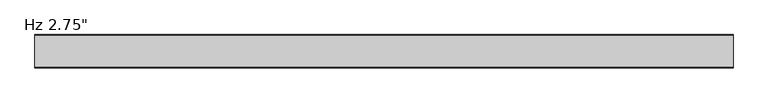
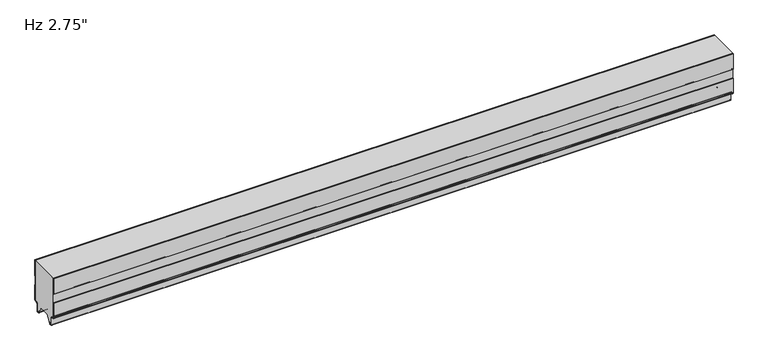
"""IFC4 building model written with IfcOpenShell, lengths in millimetres: plate geometry."""

from ifc_helpers import new_model, si_unit, frame, origin, place, context, project, spatial, polyline, circle_curve, source, transform, mapped, element, save
from ifc_brep_helpers import plane_surface, cylinder_surface, revolved_surface, advanced_brep


def plate_26d1fd30(model_context):
    return source(origin(), model_context, "Body", "AdvancedBrep", [
        advanced_brep(
        [(-730.0, -1.0, 59.9218553), (-730.0, -1.0, 94.95), (-730.0, 0.0, 94.95), (-730.0, 0.0, 59.479416), (-730.0, -1.1911595, 58.4068912), (-730.0, -1.1911595, 39.5087751), (-730.0, 0.0, 38.4362503), (-730.0, 0.0, 5.8272193), (-730.0, -2.9772904, 2.8499526), (-730.0, -5.2691742, 2.8499526), (-730.0, -8.2464427, -0.1273159), (-730.0, -8.2464427, -15.7237419), (-730.0, -9.8343193, -17.3116185), (-730.0, -12.905868, -17.3116185), (-730.0, -14.4937445, -15.7237419), (-730.0, -14.4937445, -13.3687064), (-730.0, -13.4937445, -13.3687064), (-730.0, -13.4937445, -15.7237419), (-730.0, -12.905868, -16.3116185), (-730.0, -9.8343193, -16.3116185), (-730.0, -9.2464427, -15.7237419), (-730.0, -9.2464427, -0.1273159), (-730.0, -5.2691742, 3.8499526), (-730.0, -2.9772904, 3.8499526), (-730.0, -1.0000218, 5.82722), (-730.0, -1.0, 37.993811), (-730.0, -2.1911595, 39.0663358), (-730.0, -2.1911595, 58.8493305), (730.0, 0.0, 59.479416), (730.0, 0.0, 94.95), (730.0, -1.0, 94.95), (730.0, -1.0, 59.9218553), (730.0, -2.1911595, 58.8493305), (730.0, -2.1911595, 39.0663358), (730.0, -1.0, 37.993811), (730.0, -1.0, 5.82722), (730.0, -2.9772904, 3.8499526), (730.0, -5.2691742, 3.8499526), (730.0, -9.2464427, -0.1273159), (730.0, -9.2464427, -15.7237419), (730.0, -9.8343193, -16.3116185), (730.0, -12.905868, -16.3116185), (730.0, -13.4937445, -15.7237419), (730.0, -13.4937445, -13.3687064), (730.0, -14.4937445, -13.3687064), (730.0, -14.4937445, -15.7237419), (730.0, -12.905868, -17.3116185), (730.0, -9.8343193, -17.3116185), (730.0, -8.2464427, -15.7237419), (730.0, -8.2464427, -0.1273159), (730.0, -5.2691742, 2.8499526), (730.0, -2.9772904, 2.8499526), (730.0, -2.18e-05, 5.8272193), (730.0, 0.0, 38.4362503), (730.0, -1.1911595, 39.5087751), (730.0, -1.1911595, 58.4068912)],
        [
            (0, 1),
            (1, 2),
            (2, 3),
            (3, 4),
            (4, 5),
            (5, 6),
            (6, 7),
            (7, 8, circle_curve(frame((-730.0, -2.9772904, 5.8272211), z_axis=(-1.0, 0.0, 0.0), x_axis=(0.0, 1.0, 0.0)), 2.9772685)),
            (8, 9),
            (9, 10, circle_curve(frame((-730.0, -5.2691742, -0.1273159), z_axis=(1.0, 0.0, 0.0), x_axis=(0.0, 1.0, 0.0)), 2.9772685)),
            (10, 11),
            (11, 12, circle_curve(frame((-730.0, -9.8343193, -15.7237419), z_axis=(-1.0, 0.0, 0.0), x_axis=(0.0, 1.0, 0.0)), 1.5878765)),
            (12, 13),
            (13, 14, circle_curve(frame((-730.0, -12.905868, -15.7237419), z_axis=(-1.0, 0.0, 0.0), x_axis=(0.0, 1.0, 0.0)), 1.5878765)),
            (14, 15),
            (15, 16),
            (16, 17),
            (17, 18, circle_curve(frame((-730.0, -12.905868, -15.7237419), z_axis=(1.0, 0.0, 0.0), x_axis=(0.0, 1.0, 0.0)), 0.5878765)),
            (18, 19),
            (19, 20, circle_curve(frame((-730.0, -9.8343193, -15.7237419), z_axis=(1.0, 0.0, 0.0), x_axis=(0.0, 1.0, 0.0)), 0.5878765)),
            (20, 21),
            (21, 22, circle_curve(frame((-730.0, -5.2691742, -0.1273159), z_axis=(-1.0, 0.0, 0.0), x_axis=(0.0, 1.0, 0.0)), 3.9772685)),
            (22, 23),
            (23, 24, circle_curve(frame((-730.0, -2.9772904, 5.8272212), z_axis=(1.0, 0.0, 0.0), x_axis=(0.0, 1.0, 0.0)), 1.9772685)),
            (24, 25),
            (25, 26),
            (26, 27),
            (27, 0),
            (28, 29),
            (29, 30),
            (30, 31),
            (31, 32),
            (32, 33),
            (33, 34),
            (34, 35),
            (35, 36, circle_curve(frame((730.0, -2.9772904, 5.8272212), z_axis=(-1.0, 0.0, 0.0), x_axis=(0.0, 1.0, 0.0)), 1.9772685)),
            (36, 37),
            (37, 38, circle_curve(frame((730.0, -5.2691742, -0.1273159), z_axis=(1.0, 0.0, 0.0), x_axis=(0.0, 1.0, 0.0)), 3.9772685)),
            (38, 39),
            (39, 40, circle_curve(frame((730.0, -9.8343193, -15.7237419), z_axis=(-1.0, 0.0, 0.0), x_axis=(0.0, 1.0, 0.0)), 0.5878765)),
            (40, 41),
            (41, 42, circle_curve(frame((730.0, -12.905868, -15.7237419), z_axis=(-1.0, 0.0, 0.0), x_axis=(0.0, 1.0, 0.0)), 0.5878765)),
            (42, 43),
            (43, 44),
            (44, 45),
            (45, 46, circle_curve(frame((730.0, -12.905868, -15.7237419), z_axis=(1.0, 0.0, 0.0), x_axis=(0.0, 1.0, 0.0)), 1.5878765)),
            (46, 47),
            (47, 48, circle_curve(frame((730.0, -9.8343193, -15.7237419), z_axis=(1.0, 0.0, 0.0), x_axis=(0.0, 1.0, 0.0)), 1.5878765)),
            (48, 49),
            (49, 50, circle_curve(frame((730.0, -5.2691742, -0.1273159), z_axis=(-1.0, 0.0, 0.0), x_axis=(0.0, 1.0, 0.0)), 2.9772685)),
            (50, 51),
            (51, 52, circle_curve(frame((730.0, -2.9772904, 5.8272211), z_axis=(1.0, 0.0, 0.0), x_axis=(0.0, 1.0, 0.0)), 2.9772685)),
            (52, 53),
            (53, 54),
            (54, 55),
            (55, 28),
            (30, 1),
            (0, 31),
            (27, 32),
            (26, 33),
            (25, 34),
            (24, 35),
            (23, 36),
            (22, 37),
            (21, 38),
            (20, 39),
            (19, 40),
            (18, 41),
            (17, 42),
            (16, 43),
            (15, 44),
            (14, 45),
            (13, 46),
            (12, 47),
            (11, 48),
            (10, 49),
            (9, 50),
            (8, 51),
            (7, 52),
            (6, 53),
            (5, 54),
            (4, 55),
            (3, 28),
            (2, 29),
        ],
        [
            plane_surface(frame((-730.0, 0.0, 576.2625), z_axis=(-1.0, 0.0, 0.0), x_axis=(0.0, 1.0, 0.0))),
            plane_surface(frame((730.0, 0.0, 576.2625), z_axis=(1.0, 0.0, 0.0), x_axis=(0.0, 1.0, 0.0))),
            plane_surface(frame((-730.0, -1.0, 113.6164312), z_axis=(0.0, -1.0, 0.0), x_axis=(1.0, 0.0, 0.0))),
            plane_surface(frame((-730.0, -1.0, 59.9218553), z_axis=(0.0, -0.6691306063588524, 0.7431448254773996), x_axis=(1.0, 0.0, 0.0))),
            plane_surface(frame((-730.0, -2.1911595, 58.8493305), z_axis=(0.0, -1.0, 0.0), x_axis=(1.0, 0.0, 0.0))),
            plane_surface(frame((-730.0, -2.1911595, 39.0663358), z_axis=(0.0, -0.6691306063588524, -0.7431448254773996), x_axis=(1.0, 0.0, 0.0))),
            plane_surface(frame((-730.0, -1.0, 37.993811), z_axis=(0.0, -1.0, 0.0), x_axis=(1.0, 0.0, 0.0))),
            revolved_surface(polyline([(730.0, -1.0000218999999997, 5.8272212), (-730.0, -1.0000218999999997, 5.8272212)]), (-730.0, -2.9772904, 5.8272212), (1.0, 0.0, 0.0)),
            plane_surface(frame((-730.0, -2.9772904, 3.8499526), z_axis=(0.0, 0.0, 1.0), x_axis=(1.0, 0.0, 0.0))),
            cylinder_surface(frame((-730.0, -5.2691742, -0.1273159), z_axis=(-1.0, 0.0, 0.0), x_axis=(0.0, 1.0, 0.0)), 3.9772685),
            plane_surface(frame((-730.0, -9.2464427, -0.1273159), z_axis=(0.0, -1.0, 0.0), x_axis=(1.0, 0.0, 0.0))),
            revolved_surface(polyline([(730.0, -9.2464428, -15.7237419), (-730.0, -9.2464428, -15.7237419)]), (-730.0, -9.8343193, -15.7237419), (1.0, 0.0, 0.0)),
            plane_surface(frame((-730.0, -9.8343193, -16.3116185), z_axis=(0.0, 0.0, 1.0), x_axis=(1.0, 0.0, 0.0))),
            revolved_surface(polyline([(730.0, -12.3179915, -15.7237419), (-730.0, -12.3179915, -15.7237419)]), (-730.0, -12.905868, -15.7237419), (1.0, 0.0, 0.0)),
            plane_surface(frame((-730.0, -13.4937445, -15.7237419), z_axis=(0.0, 1.0, 0.0), x_axis=(1.0, 0.0, 0.0))),
            plane_surface(frame((-730.0, -13.4937445, -13.3687064), z_axis=(0.0, 0.0, 1.0), x_axis=(1.0, 0.0, 0.0))),
            plane_surface(frame((-730.0, -14.4937445, -13.3687064), z_axis=(0.0, -1.0, 0.0), x_axis=(1.0, 0.0, 0.0))),
            cylinder_surface(frame((-730.0, -12.905868, -15.7237419), z_axis=(-1.0, 0.0, 0.0), x_axis=(0.0, 1.0, 0.0)), 1.5878765),
            plane_surface(frame((-730.0, -12.905868, -17.3116185), z_axis=(0.0, 0.0, -1.0), x_axis=(1.0, 0.0, 0.0))),
            cylinder_surface(frame((-730.0, -9.8343193, -15.7237419), z_axis=(-1.0, 0.0, 0.0), x_axis=(0.0, 1.0, 0.0)), 1.5878765),
            plane_surface(frame((-730.0, -8.2464427, -15.7237419), z_axis=(0.0, 1.0, 0.0), x_axis=(1.0, 0.0, 0.0))),
            revolved_surface(polyline([(730.0, -2.2919057, -0.1273159), (-730.0, -2.2919057, -0.1273159)]), (-730.0, -5.2691742, -0.1273159), (1.0, 0.0, 0.0)),
            plane_surface(frame((-730.0, -5.2691742, 2.8499526), z_axis=(0.0, 0.0, -1.0), x_axis=(1.0, 0.0, 0.0))),
            cylinder_surface(frame((-730.0, -2.9772904, 5.8272211), z_axis=(-1.0, 0.0, 0.0), x_axis=(0.0, 1.0, 0.0)), 2.9772685),
            plane_surface(frame((-730.0, 0.0, 5.8272193), z_axis=(0.0, 1.0, 0.0), x_axis=(1.0, 0.0, 0.0))),
            plane_surface(frame((-730.0, 0.0, 38.4362503), z_axis=(0.0, 0.6691306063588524, 0.7431448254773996), x_axis=(1.0, 0.0, 0.0))),
            plane_surface(frame((-730.0, -1.1911595, 39.5087751), z_axis=(0.0, 1.0, 0.0), x_axis=(1.0, 0.0, 0.0))),
            plane_surface(frame((-730.0, -1.1911595, 58.4068912), z_axis=(0.0, 0.6691306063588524, -0.7431448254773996), x_axis=(1.0, 0.0, 0.0))),
            plane_surface(frame((-730.0, 0.0, 59.479416), z_axis=(0.0, 1.0, 0.0), x_axis=(1.0, 0.0, 0.0))),
            plane_surface(frame((730.0, 10.0, 94.95), z_axis=(0.0, 0.0, 1.0), x_axis=(-1.0, 0.0, 0.0))),
        ],
        [
            (0, [[1, 2, 3, 4, 5, 6, 7, 8, 9, 10, 11, 12, 13, 14, 15, 16, 17, 18, 19, 20, 21, 22, 23, 24, 25, 26, 27, 28]]),
            (1, [[29, 30, 31, 32, 33, 34, 35, 36, 37, 38, 39, 40, 41, 42, 43, 44, 45, 46, 47, 48, 49, 50, 51, 52, 53, 54, 55, 56]]),
            (2, [[-31, 57, -1, 58]]),
            (3, [[59, -32, -58, -28]]),
            (4, [[60, -33, -59, -27]]),
            (5, [[61, -34, -60, -26]]),
            (6, [[62, -35, -61, -25]]),
            (7, [[63, -36, -62, -24]]),
            (8, [[64, -37, -63, -23]]),
            (9, [[65, -38, -64, -22]]),
            (10, [[66, -39, -65, -21]]),
            (11, [[67, -40, -66, -20]]),
            (12, [[68, -41, -67, -19]]),
            (13, [[69, -42, -68, -18]]),
            (14, [[70, -43, -69, -17]]),
            (15, [[71, -44, -70, -16]]),
            (16, [[72, -45, -71, -15]]),
            (17, [[73, -46, -72, -14]]),
            (18, [[74, -47, -73, -13]]),
            (19, [[75, -48, -74, -12]]),
            (20, [[76, -49, -75, -11]]),
            (21, [[77, -50, -76, -10]]),
            (22, [[78, -51, -77, -9]]),
            (23, [[79, -52, -78, -8]]),
            (24, [[80, -53, -79, -7]]),
            (25, [[81, -54, -80, -6]]),
            (26, [[82, -55, -81, -5]]),
            (27, [[83, -56, -82, -4]]),
            (28, [[-3, 84, -29, -83]]),
            (29, [[-57, -30, -84, -2]]),
        ],
    ),
        advanced_brep(
        [(-730.0, -69.9, 59.479416), (-730.0, -69.9, 94.95), (-730.0, -68.9, 94.95), (-730.0, -68.9, 59.9218553), (-730.0, -67.7088405, 58.8493305), (-730.0, -67.7088405, 39.0663358), (-730.0, -68.9, 37.993811), (-730.0, -68.9, 5.82722), (-730.0, -66.9227096, 3.8499526), (-730.0, -64.6308258, 3.8499526), (-730.0, -60.6535573, -0.1273159), (-730.0, -60.6535573, -15.7237419), (-730.0, -60.0656807, -16.3116185), (-730.0, -56.994132, -16.3116185), (-730.0, -56.4062555, -15.7237419), (-730.0, -56.4062555, -13.3687064), (-730.0, -55.4062555, -13.3687064), (-730.0, -55.4062555, -15.7237419), (-730.0, -56.994132, -17.3116185), (-730.0, -60.0656807, -17.3116185), (-730.0, -61.6535573, -15.7237419), (-730.0, -61.6535573, -0.1273159), (-730.0, -64.6308258, 2.8499526), (-730.0, -66.9227096, 2.8499526), (-730.0, -69.8999782, 5.8272193), (-730.0, -69.9, 38.4362503), (-730.0, -68.7088405, 39.5087751), (-730.0, -68.7088405, 58.4068912), (730.0, -68.9, 59.9218553), (730.0, -68.9, 94.95), (730.0, -69.9, 94.95), (730.0, -69.9, 59.479416), (730.0, -68.7088405, 58.4068912), (730.0, -68.7088405, 39.5087751), (730.0, -69.9, 38.4362503), (730.0, -69.9, 5.8272193), (730.0, -66.9227096, 2.8499526), (730.0, -64.6308258, 2.8499526), (730.0, -61.6535573, -0.1273159), (730.0, -61.6535573, -15.7237419), (730.0, -60.0656807, -17.3116185), (730.0, -56.994132, -17.3116185), (730.0, -55.4062555, -15.7237419), (730.0, -55.4062555, -13.3687064), (730.0, -56.4062555, -13.3687064), (730.0, -56.4062555, -15.7237419), (730.0, -56.994132, -16.3116185), (730.0, -60.0656807, -16.3116185), (730.0, -60.6535573, -15.7237419), (730.0, -60.6535573, -0.1273159), (730.0, -64.6308258, 3.8499526), (730.0, -66.9227096, 3.8499526), (730.0, -68.8999782, 5.82722), (730.0, -68.9, 37.993811), (730.0, -67.7088405, 39.0663358), (730.0, -67.7088405, 58.8493305)],
        [
            (0, 1),
            (1, 2),
            (2, 3),
            (3, 4),
            (4, 5),
            (5, 6),
            (6, 7),
            (7, 8, circle_curve(frame((-730.0, -66.9227096, 5.8272212), z_axis=(1.0, 0.0, 0.0), x_axis=(0.0, 0.0, -1.0)), 1.9772685)),
            (8, 9),
            (9, 10, circle_curve(frame((-730.0, -64.6308258, -0.1273159), z_axis=(-1.0, 0.0, 0.0), x_axis=(0.0, 0.0, -1.0)), 3.9772685)),
            (10, 11),
            (11, 12, circle_curve(frame((-730.0, -60.0656807, -15.7237419), z_axis=(1.0, 0.0, 0.0), x_axis=(0.0, 0.0, -1.0)), 0.5878765)),
            (12, 13),
            (13, 14, circle_curve(frame((-730.0, -56.994132, -15.7237419), z_axis=(1.0, 0.0, 0.0), x_axis=(0.0, 0.0, -1.0)), 0.5878765)),
            (14, 15),
            (15, 16),
            (16, 17),
            (17, 18, circle_curve(frame((-730.0, -56.994132, -15.7237419), z_axis=(-1.0, 0.0, 0.0), x_axis=(0.0, 0.0, -1.0)), 1.5878765)),
            (18, 19),
            (19, 20, circle_curve(frame((-730.0, -60.0656807, -15.7237419), z_axis=(-1.0, 0.0, 0.0), x_axis=(0.0, 0.0, -1.0)), 1.5878765)),
            (20, 21),
            (21, 22, circle_curve(frame((-730.0, -64.6308258, -0.1273159), z_axis=(1.0, 0.0, 0.0), x_axis=(0.0, 0.0, -1.0)), 2.9772685)),
            (22, 23),
            (23, 24, circle_curve(frame((-730.0, -66.9227096, 5.8272211), z_axis=(-1.0, 0.0, 0.0), x_axis=(0.0, 0.0, -1.0)), 2.9772685)),
            (24, 25),
            (25, 26),
            (26, 27),
            (27, 0),
            (28, 29),
            (29, 30),
            (30, 31),
            (31, 32),
            (32, 33),
            (33, 34),
            (34, 35),
            (35, 36, circle_curve(frame((730.0, -66.9227096, 5.8272211), z_axis=(1.0, 0.0, 0.0), x_axis=(0.0, 0.0, -1.0)), 2.9772685)),
            (36, 37),
            (37, 38, circle_curve(frame((730.0, -64.6308258, -0.1273159), z_axis=(-1.0, 0.0, 0.0), x_axis=(0.0, 0.0, -1.0)), 2.9772685)),
            (38, 39),
            (39, 40, circle_curve(frame((730.0, -60.0656807, -15.7237419), z_axis=(1.0, 0.0, 0.0), x_axis=(0.0, 0.0, -1.0)), 1.5878765)),
            (40, 41),
            (41, 42, circle_curve(frame((730.0, -56.994132, -15.7237419), z_axis=(1.0, 0.0, 0.0), x_axis=(0.0, 0.0, -1.0)), 1.5878765)),
            (42, 43),
            (43, 44),
            (44, 45),
            (45, 46, circle_curve(frame((730.0, -56.994132, -15.7237419), z_axis=(-1.0, 0.0, 0.0), x_axis=(0.0, 0.0, -1.0)), 0.5878765)),
            (46, 47),
            (47, 48, circle_curve(frame((730.0, -60.0656807, -15.7237419), z_axis=(-1.0, 0.0, 0.0), x_axis=(0.0, 0.0, -1.0)), 0.5878765)),
            (48, 49),
            (49, 50, circle_curve(frame((730.0, -64.6308258, -0.1273159), z_axis=(1.0, 0.0, 0.0), x_axis=(0.0, 0.0, -1.0)), 3.9772685)),
            (50, 51),
            (51, 52, circle_curve(frame((730.0, -66.9227096, 5.8272212), z_axis=(-1.0, 0.0, 0.0), x_axis=(0.0, 0.0, -1.0)), 1.9772685)),
            (52, 53),
            (53, 54),
            (54, 55),
            (55, 28),
            (1, 30),
            (29, 2),
            (0, 31),
            (27, 32),
            (26, 33),
            (25, 34),
            (24, 35),
            (23, 36),
            (22, 37),
            (21, 38),
            (20, 39),
            (19, 40),
            (18, 41),
            (17, 42),
            (16, 43),
            (15, 44),
            (14, 45),
            (13, 46),
            (12, 47),
            (11, 48),
            (10, 49),
            (9, 50),
            (8, 51),
            (7, 52),
            (6, 53),
            (5, 54),
            (4, 55),
            (3, 28),
        ],
        [
            plane_surface(frame((-730.0, -69.9, 576.2625), z_axis=(-1.0, 0.0, 0.0), x_axis=(0.0, -1.0, 0.0))),
            plane_surface(frame((730.0, -69.9, 576.2625), z_axis=(1.0, 0.0, 0.0), x_axis=(0.0, -1.0, 0.0))),
            plane_surface(frame((730.0, 10.0, 94.95), z_axis=(0.0, 0.0, 1.0), x_axis=(-1.0, 0.0, 0.0))),
            plane_surface(frame((-730.0, -69.9, 114.0588705), z_axis=(0.0, -1.0, 0.0), x_axis=(1.0, 0.0, 0.0))),
            plane_surface(frame((-730.0, -69.9, 59.479416), z_axis=(0.0, -0.6691306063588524, -0.7431448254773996), x_axis=(1.0, 0.0, 0.0))),
            plane_surface(frame((-730.0, -68.7088405, 58.4068912), z_axis=(0.0, -1.0, 0.0), x_axis=(1.0, 0.0, 0.0))),
            plane_surface(frame((-730.0, -68.7088405, 39.5087751), z_axis=(0.0, -0.6691306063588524, 0.7431448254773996), x_axis=(1.0, 0.0, 0.0))),
            plane_surface(frame((-730.0, -69.9, 38.4362503), z_axis=(0.0, -1.0, 0.0), x_axis=(1.0, 0.0, 0.0))),
            cylinder_surface(frame((-730.0, -66.9227096, 5.8272211), z_axis=(-1.0, 0.0, 0.0), x_axis=(0.0, 0.0, -1.0)), 2.9772685),
            plane_surface(frame((-730.0, -66.9227096, 2.8499526), z_axis=(0.0, 0.0, -1.0), x_axis=(1.0, 0.0, 0.0))),
            revolved_surface(polyline([(730.0, -64.6308258, -3.1045844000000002), (-730.0, -64.6308258, -3.1045844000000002)]), (-730.0, -64.6308258, -0.1273159), (1.0, 0.0, 0.0)),
            plane_surface(frame((-730.0, -61.6535573, -0.1273159), z_axis=(0.0, -1.0, 0.0), x_axis=(1.0, 0.0, 0.0))),
            cylinder_surface(frame((-730.0, -60.0656807, -15.7237419), z_axis=(-1.0, 0.0, 0.0), x_axis=(0.0, 0.0, -1.0)), 1.5878765),
            plane_surface(frame((-730.0, -60.0656807, -17.3116185), z_axis=(0.0, 0.0, -1.0), x_axis=(1.0, 0.0, 0.0))),
            cylinder_surface(frame((-730.0, -56.994132, -15.7237419), z_axis=(-1.0, 0.0, 0.0), x_axis=(0.0, 0.0, -1.0)), 1.5878765),
            plane_surface(frame((-730.0, -55.4062555, -15.7237419), z_axis=(0.0, 1.0, 0.0), x_axis=(1.0, 0.0, 0.0))),
            plane_surface(frame((-730.0, -55.4062555, -13.3687064), z_axis=(0.0, 0.0, 1.0), x_axis=(1.0, 0.0, 0.0))),
            plane_surface(frame((-730.0, -56.4062555, -13.3687064), z_axis=(0.0, -1.0, 0.0), x_axis=(1.0, 0.0, 0.0))),
            revolved_surface(polyline([(730.0, -56.994132, -16.3116184), (-730.0, -56.994132, -16.3116184)]), (-730.0, -56.994132, -15.7237419), (1.0, 0.0, 0.0)),
            plane_surface(frame((-730.0, -56.994132, -16.3116185), z_axis=(0.0, 0.0, 1.0), x_axis=(1.0, 0.0, 0.0))),
            revolved_surface(polyline([(730.0, -60.0656807, -16.3116184), (-730.0, -60.0656807, -16.3116184)]), (-730.0, -60.0656807, -15.7237419), (1.0, 0.0, 0.0)),
            plane_surface(frame((-730.0, -60.6535573, -15.7237419), z_axis=(0.0, 1.0, 0.0), x_axis=(1.0, 0.0, 0.0))),
            cylinder_surface(frame((-730.0, -64.6308258, -0.1273159), z_axis=(-1.0, 0.0, 0.0), x_axis=(0.0, 0.0, -1.0)), 3.9772685),
            plane_surface(frame((-730.0, -64.6308258, 3.8499526), z_axis=(0.0, 0.0, 1.0), x_axis=(1.0, 0.0, 0.0))),
            revolved_surface(polyline([(730.0, -66.9227096, 3.8499527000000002), (-730.0, -66.9227096, 3.8499527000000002)]), (-730.0, -66.9227096, 5.8272212), (1.0, 0.0, 0.0)),
            plane_surface(frame((-730.0, -68.9, 5.82722), z_axis=(0.0, 1.0, 0.0), x_axis=(1.0, 0.0, 0.0))),
            plane_surface(frame((-730.0, -68.9, 37.993811), z_axis=(0.0, 0.6691306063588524, -0.7431448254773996), x_axis=(1.0, 0.0, 0.0))),
            plane_surface(frame((-730.0, -67.7088405, 39.0663358), z_axis=(0.0, 1.0, 0.0), x_axis=(1.0, 0.0, 0.0))),
            plane_surface(frame((-730.0, -67.7088405, 58.8493305), z_axis=(0.0, 0.6691306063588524, 0.7431448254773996), x_axis=(1.0, 0.0, 0.0))),
            plane_surface(frame((-730.0, -68.9, 59.9218553), z_axis=(0.0, 1.0, 0.0), x_axis=(1.0, 0.0, 0.0))),
        ],
        [
            (0, [[1, 2, 3, 4, 5, 6, 7, 8, 9, 10, 11, 12, 13, 14, 15, 16, 17, 18, 19, 20, 21, 22, 23, 24, 25, 26, 27, 28]]),
            (1, [[29, 30, 31, 32, 33, 34, 35, 36, 37, 38, 39, 40, 41, 42, 43, 44, 45, 46, 47, 48, 49, 50, 51, 52, 53, 54, 55, 56]]),
            (2, [[57, -30, 58, -2]]),
            (3, [[-31, -57, -1, 59]]),
            (4, [[60, -32, -59, -28]]),
            (5, [[61, -33, -60, -27]]),
            (6, [[62, -34, -61, -26]]),
            (7, [[63, -35, -62, -25]]),
            (8, [[64, -36, -63, -24]]),
            (9, [[65, -37, -64, -23]]),
            (10, [[66, -38, -65, -22]]),
            (11, [[67, -39, -66, -21]]),
            (12, [[68, -40, -67, -20]]),
            (13, [[69, -41, -68, -19]]),
            (14, [[70, -42, -69, -18]]),
            (15, [[71, -43, -70, -17]]),
            (16, [[72, -44, -71, -16]]),
            (17, [[73, -45, -72, -15]]),
            (18, [[74, -46, -73, -14]]),
            (19, [[75, -47, -74, -13]]),
            (20, [[76, -48, -75, -12]]),
            (21, [[77, -49, -76, -11]]),
            (22, [[78, -50, -77, -10]]),
            (23, [[79, -51, -78, -9]]),
            (24, [[80, -52, -79, -8]]),
            (25, [[81, -53, -80, -7]]),
            (26, [[82, -54, -81, -6]]),
            (27, [[83, -55, -82, -5]]),
            (28, [[84, -56, -83, -4]]),
            (29, [[-3, -58, -29, -84]]),
        ],
    ),
        advanced_brep(
        [(-730.0, -68.9, 59.9218553), (-730.0, -68.9, 94.95), (-730.0, -1.0, 94.95), (-730.0, -1.0, 59.9218553), (-730.0, -2.1911595, 58.8493305), (-730.0, -2.1911595, 39.0663358), (-730.0, -1.0000109, 37.993811), (-730.0, -1.0000109, 5.8272239), (-730.0, -2.9772849, 3.8499499), (-730.0, -5.2691749, 3.8499499), (-730.0, -9.246442, -0.1273173), (-730.0, -9.246442, -15.7237417), (-730.0, -9.8343189, -16.3116186), (-730.0, -12.9058679, -16.3116186), (-730.0, -13.4937446, -15.723742), (-730.0, -13.4937446, -13.3687064), (-730.0, -14.4937446, -13.3687064), (-730.0, -14.4937446, -15.6582851), (-730.0, -23.7509179, 0.0), (-730.0, -46.1490865, 0.0), (-730.0, -55.4062554, -15.6582851), (-730.0, -55.4062554, -13.3687064), (-730.0, -56.4062554, -13.3687064), (-730.0, -56.4062554, -15.723742), (-730.0, -56.9941321, -16.3116186), (-730.0, -60.0656811, -16.3116186), (-730.0, -60.653558, -15.7237417), (-730.0, -60.653558, -0.1273173), (-730.0, -64.6308251, 3.8499499), (-730.0, -66.9227151, 3.8499499), (-730.0, -68.8999891, 5.8272239), (-730.0, -68.8999891, 37.993811), (-730.0, -67.7088405, 39.0663358), (-730.0, -67.7088405, 58.8493305), (730.0, -46.1490865, 0.0), (730.0, -23.7509179, 0.0), (730.0, -14.4937446, -15.6582851), (730.0, -14.4937446, -13.3687064), (730.0, -13.4937446, -13.3687064), (730.0, -13.4937446, -15.723742), (730.0, -12.9058679, -16.3116186), (730.0, -9.8343189, -16.3116186), (730.0, -9.246442, -15.7237417), (730.0, -9.246442, -0.1273173), (730.0, -5.2691749, 3.8499499), (730.0, -2.9772849, 3.8499499), (730.0, -1.0000109, 5.8272239), (730.0, -1.0000109, 37.993811), (730.0, -2.1911595, 39.0663358), (730.0, -2.1911595, 58.8493305), (730.0, -1.0, 59.9218553), (730.0, -1.0, 94.95), (730.0, -68.9, 94.95), (730.0, -68.9, 59.9218553), (730.0, -67.7088405, 58.8493305), (730.0, -67.7088405, 39.0663358), (730.0, -68.8999891, 37.993811), (730.0, -68.8999891, 5.8272239), (730.0, -66.9227151, 3.8499499), (730.0, -64.6308251, 3.8499499), (730.0, -60.653558, -0.1273173), (730.0, -60.653558, -15.7237417), (730.0, -60.0656811, -16.3116186), (730.0, -56.9941321, -16.3116186), (730.0, -56.4062554, -15.723742), (730.0, -56.4062554, -13.3687064), (730.0, -55.4062554, -13.3687064), (730.0, -55.4062554, -15.6582851)],
        [
            (0, 1),
            (1, 2),
            (2, 3),
            (3, 4),
            (4, 5),
            (5, 6),
            (6, 7),
            (7, 8, circle_curve(frame((-730.0, -2.9772849, 5.8272239), z_axis=(-1.0, 0.0, 0.0), x_axis=(0.0, 1.0, 0.0)), 1.977274)),
            (8, 9),
            (9, 10, circle_curve(frame((-730.0, -5.2691749, -0.1273173), z_axis=(1.0, 0.0, 0.0), x_axis=(0.0, 1.0, 0.0)), 3.9772671)),
            (10, 11),
            (11, 12, circle_curve(frame((-730.0, -9.8343189, -15.7237417), z_axis=(-1.0, 0.0, 0.0), x_axis=(0.0, 1.0, 0.0)), 0.5878769)),
            (12, 13),
            (13, 14, circle_curve(frame((-730.0, -12.9058679, -15.723742), z_axis=(-1.0, 0.0, 0.0), x_axis=(0.0, 1.0, 0.0)), 0.5878766)),
            (14, 15),
            (15, 16),
            (16, 17),
            (17, 18),
            (18, 19),
            (19, 20),
            (20, 21),
            (21, 22),
            (22, 23),
            (23, 24, circle_curve(frame((-730.0, -56.9941321, -15.723742), z_axis=(-1.0, 0.0, 0.0), x_axis=(0.0, 0.0, -1.0)), 0.5878766)),
            (24, 25),
            (25, 26, circle_curve(frame((-730.0, -60.0656811, -15.7237417), z_axis=(-1.0, 0.0, 0.0), x_axis=(0.0, 0.0, -1.0)), 0.5878769)),
            (26, 27),
            (27, 28, circle_curve(frame((-730.0, -64.6308251, -0.1273173), z_axis=(1.0, 0.0, 0.0), x_axis=(0.0, 0.0, -1.0)), 3.9772671)),
            (28, 29),
            (29, 30, circle_curve(frame((-730.0, -66.9227151, 5.8272239), z_axis=(-1.0, 0.0, 0.0), x_axis=(0.0, 0.0, -1.0)), 1.977274)),
            (30, 31),
            (31, 32),
            (32, 33),
            (33, 0),
            (34, 35),
            (35, 36),
            (36, 37),
            (37, 38),
            (38, 39),
            (39, 40, circle_curve(frame((730.0, -12.9058679, -15.723742), z_axis=(1.0, 0.0, 0.0), x_axis=(0.0, 1.0, 0.0)), 0.5878766)),
            (40, 41),
            (41, 42, circle_curve(frame((730.0, -9.8343189, -15.7237417), z_axis=(1.0, 0.0, 0.0), x_axis=(0.0, 1.0, 0.0)), 0.5878769)),
            (42, 43),
            (43, 44, circle_curve(frame((730.0, -5.2691749, -0.1273173), z_axis=(-1.0, 0.0, 0.0), x_axis=(0.0, 1.0, 0.0)), 3.9772671)),
            (44, 45),
            (45, 46, circle_curve(frame((730.0, -2.9772849, 5.8272239), z_axis=(1.0, 0.0, 0.0), x_axis=(0.0, 1.0, 0.0)), 1.977274)),
            (46, 47),
            (47, 48),
            (48, 49),
            (49, 50),
            (50, 51),
            (51, 52),
            (52, 53),
            (53, 54),
            (54, 55),
            (55, 56),
            (56, 57),
            (57, 58, circle_curve(frame((730.0, -66.9227151, 5.8272239), z_axis=(1.0, 0.0, 0.0), x_axis=(0.0, 0.0, -1.0)), 1.977274)),
            (58, 59),
            (59, 60, circle_curve(frame((730.0, -64.6308251, -0.1273173), z_axis=(-1.0, 0.0, 0.0), x_axis=(0.0, 0.0, -1.0)), 3.9772671)),
            (60, 61),
            (61, 62, circle_curve(frame((730.0, -60.0656811, -15.7237417), z_axis=(1.0, 0.0, 0.0), x_axis=(0.0, 0.0, -1.0)), 0.5878769)),
            (62, 63),
            (63, 64, circle_curve(frame((730.0, -56.9941321, -15.723742), z_axis=(1.0, 0.0, 0.0), x_axis=(0.0, 0.0, -1.0)), 0.5878766)),
            (64, 65),
            (65, 66),
            (66, 67),
            (67, 34),
            (17, 36),
            (35, 18),
            (16, 37),
            (15, 38),
            (14, 39),
            (13, 40),
            (12, 41),
            (11, 42),
            (10, 43),
            (9, 44),
            (8, 45),
            (7, 46),
            (6, 47),
            (5, 48),
            (4, 49),
            (3, 50),
            (2, 51),
            (34, 19),
            (1, 52),
            (0, 53),
            (33, 54),
            (32, 55),
            (31, 56),
            (30, 57),
            (29, 58),
            (28, 59),
            (27, 60),
            (26, 61),
            (25, 62),
            (24, 63),
            (23, 64),
            (22, 65),
            (21, 66),
            (20, 67),
        ],
        [
            plane_surface(frame((-730.0, -68.9, 576.2625), z_axis=(-1.0, 0.0, 0.0), x_axis=(0.0, -1.0, 0.0))),
            plane_surface(frame((730.0, -68.9, 576.2625), z_axis=(1.0, 0.0, 0.0), x_axis=(0.0, -1.0, 0.0))),
            plane_surface(frame((-730.0, -23.7509179, 0.0), z_axis=(0.0, -0.8608169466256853, -0.5089147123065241), x_axis=(1.0, 0.0, 0.0))),
            plane_surface(frame((-730.0, -14.4937446, -15.6582851), z_axis=(0.0, 1.0, 0.0), x_axis=(1.0, 0.0, 0.0))),
            plane_surface(frame((-730.0, -14.4937446, -13.3687064), z_axis=(0.0, 0.0, -1.0), x_axis=(1.0, 0.0, 0.0))),
            plane_surface(frame((-730.0, -13.4937446, -13.3687064), z_axis=(0.0, -1.0, 0.0), x_axis=(1.0, 0.0, 0.0))),
            cylinder_surface(frame((-730.0, -12.9058679, -15.723742), z_axis=(-1.0, 0.0, 0.0), x_axis=(0.0, 1.0, 0.0)), 0.5878766),
            plane_surface(frame((-730.0, -12.9058679, -16.3116186), z_axis=(0.0, 0.0, -1.0), x_axis=(1.0, 0.0, 0.0))),
            cylinder_surface(frame((-730.0, -9.8343189, -15.7237417), z_axis=(-1.0, 0.0, 0.0), x_axis=(0.0, 1.0, 0.0)), 0.5878769),
            plane_surface(frame((-730.0, -9.246442, -15.7237417), z_axis=(0.0, 1.0, 0.0), x_axis=(1.0, 0.0, 0.0))),
            revolved_surface(polyline([(730.0, -1.2919078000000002, -0.1273173), (-730.0, -1.2919078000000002, -0.1273173)]), (-730.0, -5.2691749, -0.1273173), (1.0, 0.0, 0.0)),
            plane_surface(frame((-730.0, -5.2691749, 3.8499499), z_axis=(0.0, 0.0, -1.0), x_axis=(1.0, 0.0, 0.0))),
            cylinder_surface(frame((-730.0, -2.9772849, 5.8272239), z_axis=(-1.0, 0.0, 0.0), x_axis=(0.0, 1.0, 0.0)), 1.977274),
            plane_surface(frame((-730.0, -1.0000109, 5.8272239), z_axis=(0.0, 1.0, 0.0), x_axis=(1.0, 0.0, 0.0))),
            plane_surface(frame((-730.0, -1.0000109, 37.993811), z_axis=(0.0, 0.6691339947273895, 0.7431417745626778), x_axis=(1.0, 0.0, 0.0))),
            plane_surface(frame((-730.0, -2.1911595, 39.0663358), z_axis=(0.0, 1.0, 0.0), x_axis=(1.0, 0.0, 0.0))),
            plane_surface(frame((-730.0, -2.1911595, 58.8493305), z_axis=(0.0, 0.6691306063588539, -0.7431448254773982), x_axis=(1.0, 0.0, 0.0))),
            plane_surface(frame((-730.0, -1.0, 59.9218553), z_axis=(0.0, 1.0, 0.0), x_axis=(1.0, 0.0, 0.0))),
            plane_surface(frame((-730.0, -46.1490865, 0.0), z_axis=(0.0, 0.0, -1.0), x_axis=(1.0, 0.0, 0.0))),
            plane_surface(frame((730.0, 10.0, 94.95), z_axis=(0.0, 0.0, 1.0), x_axis=(-1.0, 0.0, 0.0))),
            plane_surface(frame((-730.0, -68.9, 113.6164312), z_axis=(0.0, -1.0, 0.0), x_axis=(1.0, 0.0, 0.0))),
            plane_surface(frame((-730.0, -68.9, 59.9218553), z_axis=(0.0, -0.6691306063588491, -0.7431448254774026), x_axis=(1.0, 0.0, 0.0))),
            plane_surface(frame((-730.0, -67.7088405, 58.8493305), z_axis=(0.0, -1.0, 0.0), x_axis=(1.0, 0.0, 0.0))),
            plane_surface(frame((-730.0, -67.7088405, 39.0663358), z_axis=(0.0, -0.6691339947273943, 0.7431417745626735), x_axis=(1.0, 0.0, 0.0))),
            plane_surface(frame((-730.0, -68.8999891, 37.993811), z_axis=(0.0, -1.0, 0.0), x_axis=(1.0, 0.0, 0.0))),
            cylinder_surface(frame((-730.0, -66.9227151, 5.8272239), z_axis=(-1.0, 0.0, 0.0), x_axis=(0.0, 0.0, -1.0)), 1.977274),
            plane_surface(frame((-730.0, -66.9227151, 3.8499499), z_axis=(0.0, 0.0, -1.0), x_axis=(1.0, 0.0, 0.0))),
            revolved_surface(polyline([(730.0, -64.6308251, -4.1045844), (-730.0, -64.6308251, -4.1045844)]), (-730.0, -64.6308251, -0.1273173), (1.0, 0.0, 0.0)),
            plane_surface(frame((-730.0, -60.653558, -0.1273173), z_axis=(0.0, -1.0, 0.0), x_axis=(1.0, 0.0, 0.0))),
            cylinder_surface(frame((-730.0, -60.0656811, -15.7237417), z_axis=(-1.0, 0.0, 0.0), x_axis=(0.0, 0.0, -1.0)), 0.5878769),
            plane_surface(frame((-730.0, -60.0656811, -16.3116186), z_axis=(0.0, 0.0, -1.0), x_axis=(1.0, 0.0, 0.0))),
            cylinder_surface(frame((-730.0, -56.9941321, -15.723742), z_axis=(-1.0, 0.0, 0.0), x_axis=(0.0, 0.0, -1.0)), 0.5878766),
            plane_surface(frame((-730.0, -56.4062554, -15.723742), z_axis=(0.0, 1.0, 0.0), x_axis=(1.0, 0.0, 0.0))),
            plane_surface(frame((-730.0, -56.4062554, -13.3687064), z_axis=(0.0, 0.0, -1.0), x_axis=(1.0, 0.0, 0.0))),
            plane_surface(frame((-730.0, -55.4062554, -13.3687064), z_axis=(0.0, -1.0, 0.0), x_axis=(1.0, 0.0, 0.0))),
            plane_surface(frame((-730.0, -55.4062554, -15.6582851), z_axis=(0.0, 0.8608169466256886, -0.5089147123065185), x_axis=(1.0, 0.0, 0.0))),
        ],
        [
            (0, [[1, 2, 3, 4, 5, 6, 7, 8, 9, 10, 11, 12, 13, 14, 15, 16, 17, 18, 19, 20, 21, 22, 23, 24, 25, 26, 27, 28, 29, 30, 31, 32, 33, 34]]),
            (1, [[35, 36, 37, 38, 39, 40, 41, 42, 43, 44, 45, 46, 47, 48, 49, 50, 51, 52, 53, 54, 55, 56, 57, 58, 59, 60, 61, 62, 63, 64, 65, 66, 67, 68]]),
            (2, [[69, -36, 70, -18]]),
            (3, [[71, -37, -69, -17]]),
            (4, [[72, -38, -71, -16]]),
            (5, [[73, -39, -72, -15]]),
            (6, [[74, -40, -73, -14]]),
            (7, [[75, -41, -74, -13]]),
            (8, [[76, -42, -75, -12]]),
            (9, [[77, -43, -76, -11]]),
            (10, [[78, -44, -77, -10]]),
            (11, [[79, -45, -78, -9]]),
            (12, [[80, -46, -79, -8]]),
            (13, [[81, -47, -80, -7]]),
            (14, [[82, -48, -81, -6]]),
            (15, [[83, -49, -82, -5]]),
            (16, [[84, -50, -83, -4]]),
            (17, [[-3, 85, -51, -84]]),
            (18, [[86, -19, -70, -35]]),
            (19, [[87, -52, -85, -2]]),
            (20, [[-53, -87, -1, 88]]),
            (21, [[89, -54, -88, -34]]),
            (22, [[90, -55, -89, -33]]),
            (23, [[91, -56, -90, -32]]),
            (24, [[92, -57, -91, -31]]),
            (25, [[93, -58, -92, -30]]),
            (26, [[94, -59, -93, -29]]),
            (27, [[95, -60, -94, -28]]),
            (28, [[96, -61, -95, -27]]),
            (29, [[97, -62, -96, -26]]),
            (30, [[98, -63, -97, -25]]),
            (31, [[99, -64, -98, -24]]),
            (32, [[100, -65, -99, -23]]),
            (33, [[101, -66, -100, -22]]),
            (34, [[102, -67, -101, -21]]),
            (35, [[-86, -68, -102, -20]]),
        ],
    ),
    ])


if __name__ == "__main__":
    model = new_model("IFC4")
    model_context = context("Model", 3, world=origin())
    ifc_project = project(units=[si_unit("LENGTHUNIT", "METRE", prefix="MILLI")], contexts=[model_context])
    site = spatial("IfcSite", under=ifc_project)
    building = spatial("IfcBuilding", under=site)
    placement = place(None, origin())
    plate_shape = plate_26d1fd30(model_context)
    element("IfcPlate", 1, ObjectType="KIP-SLI-FLI-R19-CP-Hz-SL_SL : Hz 2.75\"", at=placement, inside=building, context=model_context, shape_type="MappedRepresentation", body=[
        mapped(plate_shape, transform((0.0, 0.0, 0.0), x_axis=(1.0, 0.0, 0.0), y_axis=(0.0, 1.0, 0.0), z_axis=(0.0, 0.0, 1.0))),
    ])
    save(model, "model.ifc")
